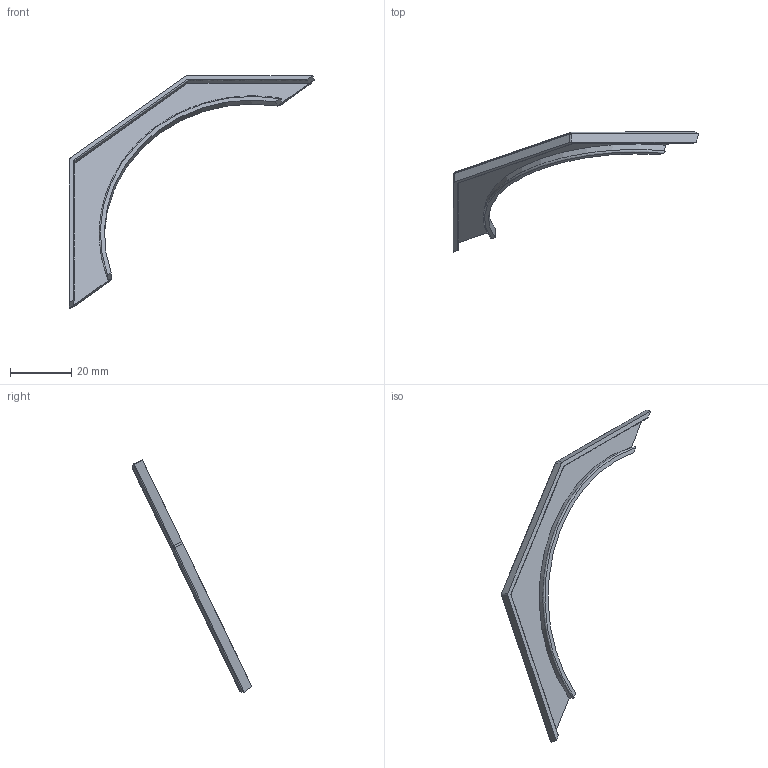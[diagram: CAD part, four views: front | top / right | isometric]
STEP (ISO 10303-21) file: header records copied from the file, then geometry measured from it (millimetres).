
FILE_DESCRIPTION((''),'2;1');
FILE_NAME('PRT0006','2022-10-27T10:52:57',('Kate'),(''),'CREO PARAMETRIC BY PTC INC, 2020281','CREO PARAMETRIC BY PTC INC, 2020281','');
FILE_SCHEMA(('AUTOMOTIVE_DESIGN { 1 0 10303 214 1 1 1 1 }'));
Length unit declared in the file: millimetre
Products named in the file (1): PRT0006
Bounding box: 80.41 x 39.2 x 76.31 mm (x, y, z)
Volume: 2597.1 mm3; surface area: 4533.9 mm2
Topology: 1 solids, 1 shells, 40 faces, 96 edges, 58 vertices
Faces by surface type: plane 19, cylinder 10, cone 3, extrusion 3, bspline 2, torus 2, revolution 1
Entity records: 1296 total; most frequent: CARTESIAN_POINT 353, ORIENTED_EDGE 192, DIRECTION 166, EDGE_CURVE 96, VERTEX_POINT 58, VECTOR 55, AXIS2_PLACEMENT_3D 55, LINE 52
